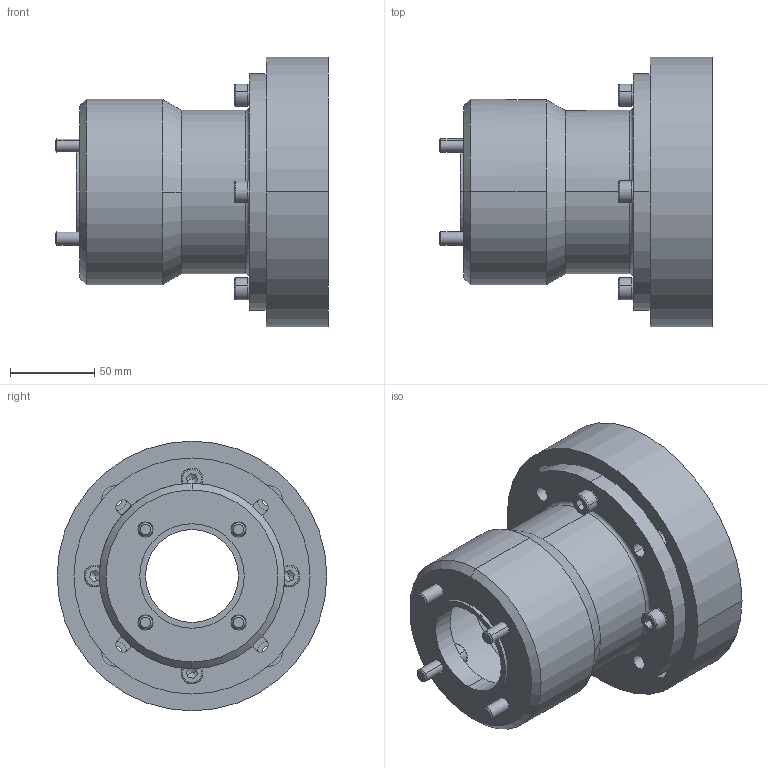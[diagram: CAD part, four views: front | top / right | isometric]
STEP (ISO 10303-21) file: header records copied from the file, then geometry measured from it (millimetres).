
FILE_DESCRIPTION (( 'STEP AP203' ), '1' );
FILE_NAME ('MG160.STEP', '2024-01-16T07:51:54', ( '' ), ( '' ), 'SwSTEP 2.0', 'SolidWorks 2022', '' );
FILE_SCHEMA (( 'CONFIG_CONTROL_DESIGN' ));
Length unit declared in the file: millimetre
Products named in the file (1): MG160
Bounding box: 161.8 x 160 x 160 mm (x, y, z)
Volume: 884093.2 mm3; surface area: 176741.9 mm2
Topology: 18 solids, 18 shells, 332 faces, 806 edges, 514 vertices
Faces by surface type: cylinder 138, plane 104, cone 54, torus 36
Entity records: 9847 total; most frequent: CARTESIAN_POINT 1833, DIRECTION 1790, ORIENTED_EDGE 1564, EDGE_CURVE 782, AXIS2_PLACEMENT_3D 747, VERTEX_POINT 514, CIRCLE 414, EDGE_LOOP 414
